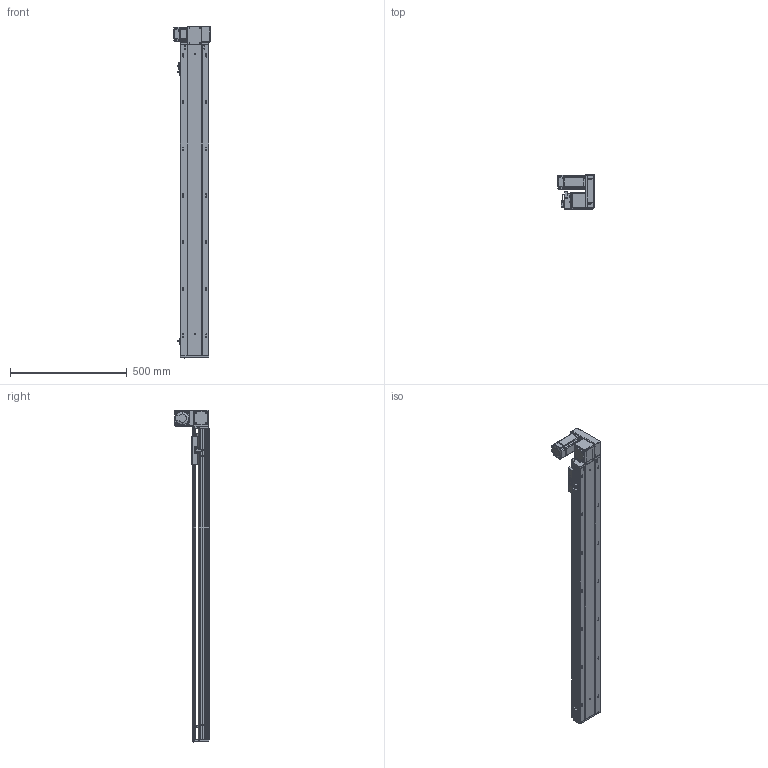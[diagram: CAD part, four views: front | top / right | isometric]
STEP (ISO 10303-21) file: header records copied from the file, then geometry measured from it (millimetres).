
FILE_DESCRIPTION (( 'STEP AP203' ), '1' );
FILE_NAME ('RY120-T-300-UR.SLDASM_1100.step', '2021-03-01T05:56:50', ( '盈信电脑' ), ( '东莞市道滘镇水果街19号' ), 'SwSTEP 2.0', 'SolidWorks 2012', '' );
FILE_SCHEMA (( 'CONFIG_CONTROL_DESIGN' ));
Length unit declared in the file: millimetre
Products named in the file (17): RY120-T-300-UR.SLDASM_1100; RY120-T蹟翐M4; RY120-T萇儂欶; RY120-T主同步轮轴承压盖; 15; RY120-T翋肮祭盓傅釱; RY120-T翋肮祭謫裔啣; RY120-T萇儂假蚾啣; 滅袉蝶18-10; RY120-T肮祭湍揤踡輸1; RY120外置感应片(140共用）; RY120-T肮祭湍揤踡輸2; RY120-T-300-UR倰第奻裔啣_1100; RY120綴裔啣; 覜茼ん672; RY120肮祭湍臏賑輸; RY120-T-300-UR倰第菁釱_1100
Assembly tree (22 placements, depth 2):
  RY120-T-300-UR.SLDASM_1100
    RY120-T-300-UR倰第菁釱_1100
    RY120-T-300-UR倰第奻裔啣_1100
    RY120肮祭湍臏賑輸
    RY120綴裔啣
    覜茼ん672  x3
    RY120外置感应片(140共用）
    RY120-T肮祭湍揤踡輸1
    RY120-T肮祭湍揤踡輸2
    RY120-T翋肮祭盓傅釱
    RY120-T萇儂假蚾啣
    滅袉蝶18-10  x2
    RY120-T翋肮祭謫裔啣
    15
    RY120-T蹟翐M4  x4
    RY120-T萇儂欶
    RY120-T主同步轮轴承压盖
Bounding box: 155.5 x 146 x 1421 mm (x, y, z)
Volume: 3836994.8 mm3; surface area: 1437137.7 mm2
Topology: 23 solids, 23 shells, 2828 faces, 7700 edges, 4930 vertices
Faces by surface type: plane 1412, cylinder 1070, cone 257, bspline 89
Entity records: 89713 total; most frequent: CARTESIAN_POINT 22696, ORIENTED_EDGE 13808, DIRECTION 13102, EDGE_CURVE 6904, VERTEX_POINT 4517, AXIS2_PLACEMENT_3D 4391, VECTOR 4320, LINE 4320
